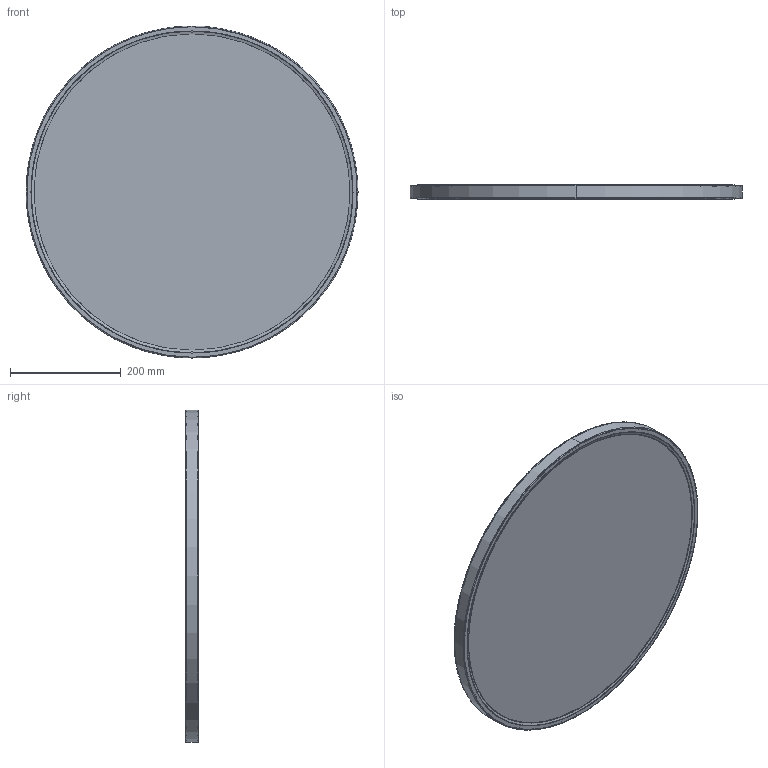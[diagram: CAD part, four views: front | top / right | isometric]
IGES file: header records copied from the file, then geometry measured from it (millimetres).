
Start section: SolidWorks IGES file using analytic representation for surfaces
Global section: file name: \\srvficheros\grupos\DISENYO\DESARROLLO DE PRODUCTO\_3D_WEB\KOE-P3852372\KOE-P3852372.IGS; native system: SolidWorks 2025; preprocessor: SolidWorks 2025; author: d.pons; date: 260114.103544; units: millimetre
Bounding box: 600 x 25 x 600 mm (x, y, z)
Surface area: 1408619.2 mm2 (no closed solid volume)
Topology: 0 solids, 0 shells, 749 faces, 6473 edges, 6473 vertices
Faces by surface type: bspline 431, revolution 318
